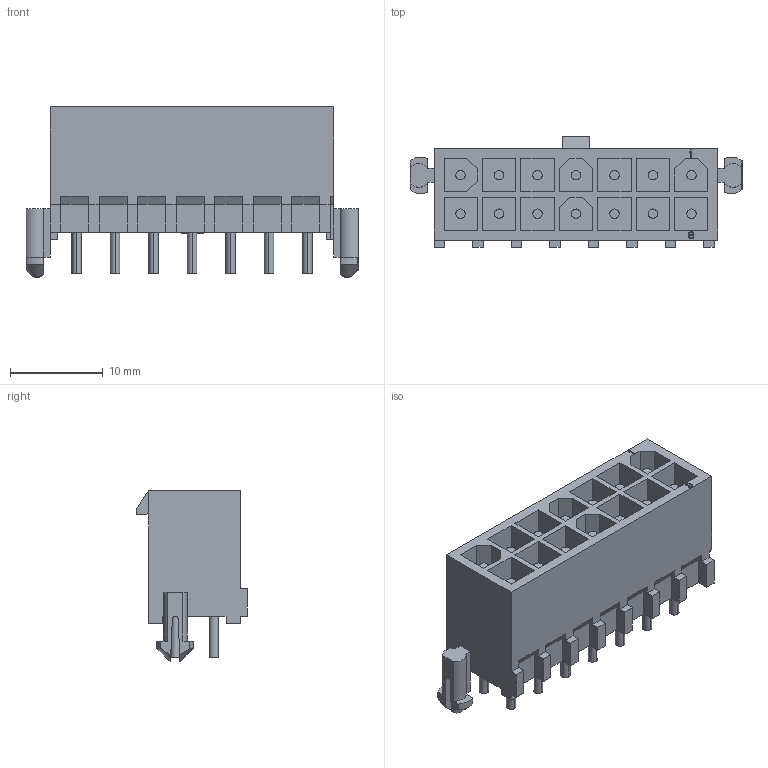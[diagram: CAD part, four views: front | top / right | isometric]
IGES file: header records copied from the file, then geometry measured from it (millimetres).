
Start section:  PTC IGES file: c-0794074-02-d-3d.igs
Global section: file name: c-0794074-02-d-3d.igs; native system: Pro/ENGINEER by Parametric Technology Corporation; preprocessor: 2005450; author: workeradm; organization: Unknown; date: 070904.192711; units: millimetre
Bounding box: 35.71 x 11.89 x 18.31 mm (x, y, z)
Surface area: 4341.8 mm2 (no closed solid volume)
Topology: 0 solids, 0 shells, 397 faces, 2048 edges, 2048 vertices
Faces by surface type: bspline 320, revolution 75, extrusion 2
